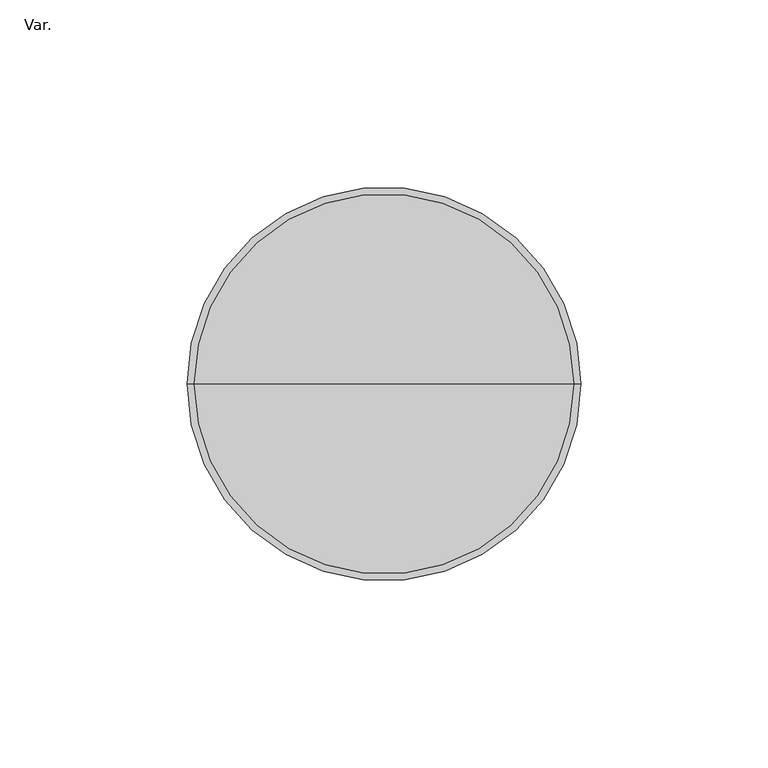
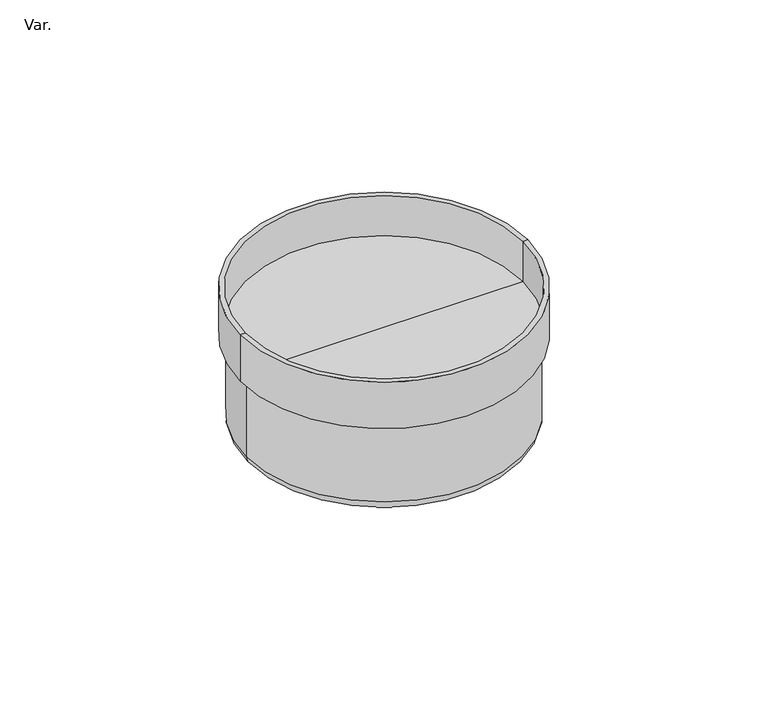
"""IFC4 building model written with IfcOpenShell, lengths in millimetres: pipe fitting geometry, AmancoWavin_ConexõesdeTubos_EsgotoZNãoUsarRaloSifonadoCilindricoProlongamento : Var.."""

from ifc_helpers import new_model, si_unit, point, frame, origin, place, context, project, spatial, polyline, circle_curve, ellipse_curve, trimmed, source, transform, mapped, element, save
from ifc_brep_helpers import plane_surface, cylinder_surface, revolved_surface, advanced_brep


def var_61dafded(model_context):
    return source(origin(), model_context, "Body", "AdvancedBrep", [
        advanced_brep(
        [(0.0, 0.0, 0.0), (-20.0, 0.0, 0.0), (20.0, 0.0, 0.0), (50.8, 0.0, 19.3), (-50.8, 0.0, 19.3), (0.0, 0.0, 19.3), (50.8, 0.0, 34.8), (-50.8, 0.0, 34.8), (52.6, 0.0, 34.8), (-52.6, 0.0, 34.8), (52.6, 0.0, 16.8), (-52.6, 0.0, 16.8), (50.4, 0.0, 16.8), (-50.4, 0.0, 16.8), (50.4, 0.0, -13.2), (-50.4, 0.0, -13.2), (46.4, 0.0, -17.2), (-46.4, 0.0, -17.2), (22.25, 0.0, -17.2), (-22.25, 0.0, -17.2), (22.25, 0.0, -8.3), (-22.25, 0.0, -8.3), (20.0, 0.0, -8.3), (-20.0, 0.0, -8.3)],
        [
            (0, 1),
            (1, 2, circle_curve(frame((0.0, 0.0, 0.0), z_axis=(0.0, 0.0, -1.0), x_axis=(-1.0, 0.0, 0.0)), 20.0)),
            (2, 0),
            (2, 1, circle_curve(frame((0.0, 0.0, 0.0), z_axis=(0.0, 0.0, -1.0), x_axis=(-1.0, 0.0, 0.0)), 20.0)),
            (3, 4, circle_curve(frame((0.0, 0.0, 19.3), z_axis=(0.0, 0.0, 1.0), x_axis=(-1.0, 0.0, 0.0)), 50.8)),
            (4, 5),
            (5, 3),
            (4, 3, circle_curve(frame((0.0, 0.0, 19.3), z_axis=(0.0, 0.0, 1.0), x_axis=(-1.0, 0.0, 0.0)), 50.8)),
            (6, 7, circle_curve(frame((0.0, 0.0, 34.8), z_axis=(0.0, 0.0, 1.0), x_axis=(-1.0, 0.0, 0.0)), 50.8)),
            (7, 4),
            (3, 6),
            (7, 6, circle_curve(frame((0.0, 0.0, 34.8), z_axis=(0.0, 0.0, 1.0), x_axis=(-1.0, 0.0, 0.0)), 50.8)),
            (8, 9, circle_curve(frame((0.0, 0.0, 34.8), z_axis=(0.0, 0.0, 1.0), x_axis=(-1.0, 0.0, 0.0)), 52.6)),
            (9, 7),
            (6, 8),
            (9, 8, circle_curve(frame((0.0, 0.0, 34.8), z_axis=(0.0, 0.0, 1.0), x_axis=(-1.0, 0.0, 0.0)), 52.6)),
            (10, 11, circle_curve(frame((0.0, 0.0, 16.8), z_axis=(0.0, 0.0, 1.0), x_axis=(-1.0, 0.0, 0.0)), 52.6)),
            (11, 9),
            (8, 10),
            (11, 10, circle_curve(frame((0.0, 0.0, 16.8), z_axis=(0.0, 0.0, 1.0), x_axis=(-1.0, 0.0, 0.0)), 52.6)),
            (12, 13, circle_curve(frame((0.0, 0.0, 16.8), z_axis=(0.0, 0.0, 1.0), x_axis=(-1.0, 0.0, 0.0)), 50.4)),
            (13, 11),
            (10, 12),
            (13, 12, circle_curve(frame((0.0, 0.0, 16.8), z_axis=(0.0, 0.0, 1.0), x_axis=(-1.0, 0.0, 0.0)), 50.4)),
            (14, 15, circle_curve(frame((0.0, 0.0, -13.2), z_axis=(0.0, 0.0, 1.0), x_axis=(-1.0, 0.0, 0.0)), 50.4)),
            (15, 13),
            (12, 14),
            (15, 14, circle_curve(frame((0.0, 0.0, -13.2), z_axis=(0.0, 0.0, 1.0), x_axis=(-1.0, 0.0, 0.0)), 50.4)),
            (16, 17, circle_curve(frame((0.0, 0.0, -17.2), z_axis=(0.0, 0.0, 1.0), x_axis=(-1.0, 0.0, 0.0)), 46.4)),
            (17, 15, circle_curve(frame((-46.4, 0.0, -13.2), z_axis=(0.0, 1.0, 0.0), x_axis=(1.0, 0.0, 0.0)), 4.0)),
            (14, 16, circle_curve(frame((46.4, 0.0, -13.2), z_axis=(0.0, 1.0, 0.0), x_axis=(-1.0, 0.0, 0.0)), 4.0)),
            (17, 16, circle_curve(frame((0.0, 0.0, -17.2), z_axis=(0.0, 0.0, 1.0), x_axis=(-1.0, 0.0, 0.0)), 46.4)),
            (18, 19, circle_curve(frame((0.0, 0.0, -17.2), z_axis=(0.0, 0.0, 1.0), x_axis=(-1.0, 0.0, 0.0)), 22.25)),
            (19, 17),
            (16, 18),
            (19, 18, circle_curve(frame((0.0, 0.0, -17.2), z_axis=(0.0, 0.0, 1.0), x_axis=(-1.0, 0.0, 0.0)), 22.25)),
            (20, 21, circle_curve(frame((0.0, 0.0, -8.3), z_axis=(0.0, 0.0, 1.0), x_axis=(-1.0, 0.0, 0.0)), 22.25)),
            (21, 19),
            (18, 20),
            (21, 20, circle_curve(frame((0.0, 0.0, -8.3), z_axis=(0.0, 0.0, 1.0), x_axis=(-1.0, 0.0, 0.0)), 22.25)),
            (22, 23, circle_curve(frame((0.0, 0.0, -8.3), z_axis=(0.0, 0.0, 1.0), x_axis=(-1.0, 0.0, 0.0)), 20.0)),
            (23, 21),
            (20, 22),
            (23, 22, circle_curve(frame((0.0, 0.0, -8.3), z_axis=(0.0, 0.0, 1.0), x_axis=(-1.0, 0.0, 0.0)), 20.0)),
            (1, 23),
            (22, 2),
        ],
        [
            plane_surface(frame((0.0, 0.0, 0.0), z_axis=(0.0, 0.0, -1.0), x_axis=(-1.0, 0.0, 0.0))),
            plane_surface(frame((0.0, 0.0, 19.3), z_axis=(0.0, 0.0, 1.0), x_axis=(-1.0, 0.0, 0.0))),
            revolved_surface(polyline([(-50.8, 0.0, 19.300000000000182), (-50.8, 0.0, 34.80000000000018)]), (0.0, 0.0, 2200.3150031), (0.0, 0.0, -1.0)),
            plane_surface(frame((0.0, 0.0, 34.8), z_axis=(0.0, 0.0, 1.0), x_axis=(-1.0, 0.0, 0.0))),
            cylinder_surface(frame((0.0, 0.0, 2200.3150031), z_axis=(0.0, 0.0, -1.0), x_axis=(-1.0, 0.0, 0.0)), 52.6),
            plane_surface(frame((0.0, 0.0, 16.8), z_axis=(0.0, 0.0, -1.0), x_axis=(-1.0, 0.0, 0.0))),
            cylinder_surface(frame((0.0, 0.0, 2200.3150031), z_axis=(0.0, 0.0, -1.0), x_axis=(-1.0, 0.0, 0.0)), 50.4),
            revolved_surface(trimmed(ellipse_curve(frame((-46.4, 0.0, -13.2), z_axis=(0.0, -1.0, 0.0), x_axis=(1.0, 0.0, 0.0)), 4.0, 4.0), [point((-50.4, 0.0, -13.2))], [point((-46.4, 0.0, -17.2))], True, "CARTESIAN"), (0.0, 0.0, 2200.3150031), (0.0, 0.0, -1.0)),
            plane_surface(frame((0.0, 0.0, -17.2), z_axis=(0.0, 0.0, -1.0), x_axis=(-1.0, 0.0, 0.0))),
            revolved_surface(polyline([(-22.25, 0.0, -17.199999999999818), (-22.25, 0.0, -8.300000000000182)]), (0.0, 0.0, 2200.3150031), (0.0, 0.0, -1.0)),
            plane_surface(frame((0.0, 0.0, -8.3), z_axis=(0.0, 0.0, -1.0), x_axis=(-1.0, 0.0, 0.0))),
            revolved_surface(polyline([(-20.0, 0.0, -8.300000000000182), (-20.0, 0.0, 0.0)]), (0.0, 0.0, 2200.3150031), (0.0, 0.0, -1.0)),
        ],
        [
            (0, [[1, 2, 3]]),
            (0, [[-3, 4, -1]]),
            (1, [[5, 6, 7]]),
            (1, [[8, -7, -6]]),
            (2, [[9, 10, -5, 11]]),
            (2, [[12, -11, -8, -10]]),
            (3, [[13, 14, -9, 15]]),
            (3, [[16, -15, -12, -14]]),
            (4, [[17, 18, -13, 19]]),
            (4, [[20, -19, -16, -18]]),
            (5, [[21, 22, -17, 23]]),
            (5, [[24, -23, -20, -22]]),
            (6, [[25, 26, -21, 27]]),
            (6, [[28, -27, -24, -26]]),
            (7, [[29, 30, -25, 31]]),
            (7, [[32, -31, -28, -30]]),
            (8, [[33, 34, -29, 35]]),
            (8, [[36, -35, -32, -34]]),
            (9, [[37, 38, -33, 39]]),
            (9, [[40, -39, -36, -38]]),
            (10, [[41, 42, -37, 43]]),
            (10, [[44, -43, -40, -42]]),
            (11, [[-2, 45, -41, 46]]),
            (11, [[-4, -46, -44, -45]]),
        ],
    ),
    ])


if __name__ == "__main__":
    model = new_model("IFC4")
    model_context = context("Model", 3, world=origin())
    ifc_project = project(units=[si_unit("LENGTHUNIT", "METRE", prefix="MILLI")], contexts=[model_context])
    site = spatial("IfcSite", under=ifc_project)
    building = spatial("IfcBuilding", under=site)
    placement = place(None, origin())
    var_shape = var_61dafded(model_context)
    element("IfcPipeFitting", 1, ObjectType="AmancoWavin_ConexõesdeTubos_EsgotoZNãoUsarRaloSifonadoCilindricoProlongamento : Var.", at=placement, inside=building, context=model_context, shape_type="MappedRepresentation", body=[
        mapped(var_shape, transform((0.0, 0.0, 0.0), x_axis=(1.0, 0.0, 0.0), y_axis=(0.0, 1.0, 0.0), z_axis=(0.0, 0.0, 1.0))),
    ])
    save(model, "model.ifc")
